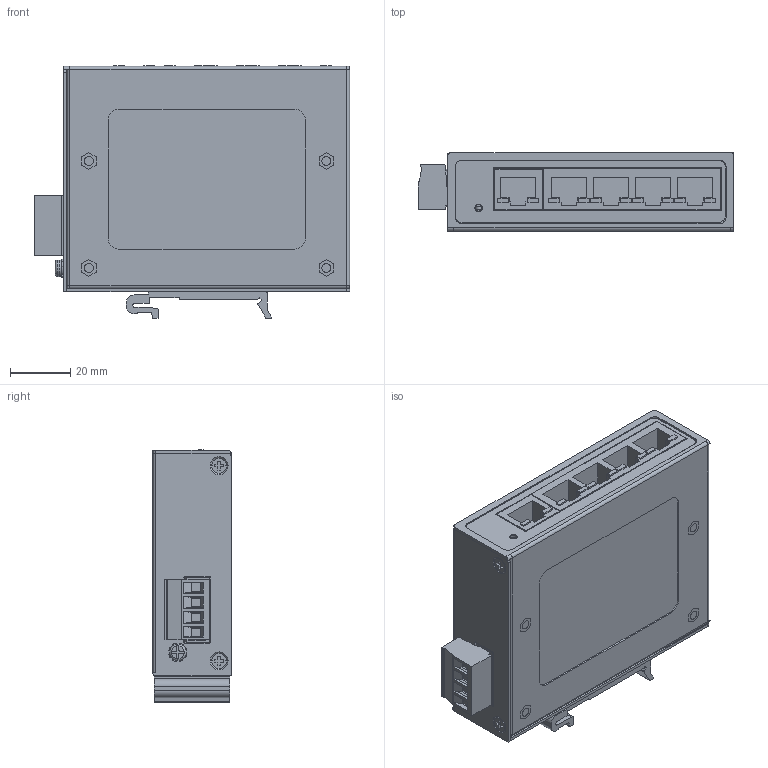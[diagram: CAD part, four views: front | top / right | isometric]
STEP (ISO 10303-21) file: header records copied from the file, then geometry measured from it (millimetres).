
FILE_DESCRIPTION(('FreeCAD Model'),'2;1');
FILE_NAME('X:/Technische Zeichnungen/EX-6220/EX-6220_3D.step', '2022-06-14T08:31:32',('Author'),(''), 'Open CASCADE STEP processor 7.3','FreeCAD','Unknown');
FILE_SCHEMA(('AUTOMOTIVE_DESIGN { 1 0 10303 214 1 1 1 1 }'));
Length unit declared in the file: millimetre
Products named in the file (18): EX-6220_3D; ASM0002_ASM; ASM0003_ASM; PRT0001; PRT0005; PRT0006; ASM0004_ASM; PRT0007; PRT0008; PRT0009; PRT0010; PRT0011; PRT0013; PRT0014; PRT0015; PRT0016; PRT0025; PRT0026
Assembly tree (29 placements, depth 4):
  EX-6220_3D
    ASM0002_ASM
      ASM0003_ASM
        PRT0001
        PRT0005  x4
        PRT0006
      ASM0004_ASM
        PRT0007
        PRT0008
        PRT0009
        PRT0010
        PRT0011
        PRT0013  x2
      PRT0014
      PRT0015
      PRT0016
      PRT0025  x9
      PRT0026
Bounding box: 104.8 x 26 x 84.09 mm (x, y, z)
Volume: 48514.9 mm3; surface area: 67236.5 mm2
Topology: 26 solids, 31 shells, 1839 faces, 4696 edges, 2994 vertices
Faces by surface type: plane 1062, cylinder 559, torus 110, cone 82, sphere 24, bspline 2
Entity records: 112556 total; most frequent: CARTESIAN_POINT 34905, DIRECTION 14841, LINE 8948, VECTOR 8948, ORIENTED_EDGE 7632, PCURVE 7632, DEFINITIONAL_REPRESENTATION 7632, EDGE_CURVE 3816
